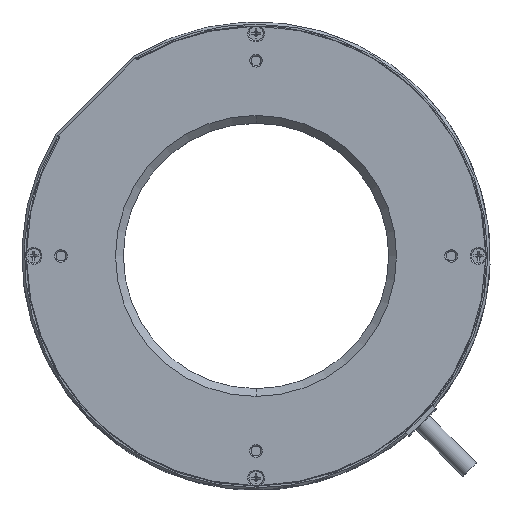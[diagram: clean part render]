
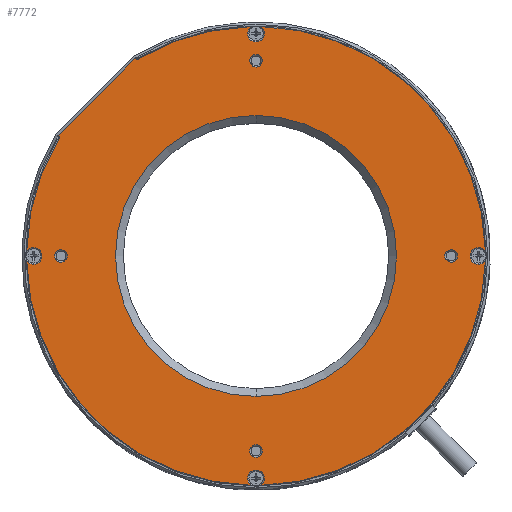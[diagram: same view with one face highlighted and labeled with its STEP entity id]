
A CAD part, top view. The second image highlights one B-rep face of the part: STEP entity #7772.
In plain terms, the highlighted planar face has unit normal (0, 0, 1).
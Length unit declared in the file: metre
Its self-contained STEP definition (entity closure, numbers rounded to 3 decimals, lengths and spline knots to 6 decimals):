
#1431=CARTESIAN_POINT('',(0.,0.,0.0035));
#1432=DIRECTION('',(0.,0.,-1.));
#1433=DIRECTION('',(0.,1.,0.));
#1434=AXIS2_PLACEMENT_3D('',#1431,#1432,#1433);
#1436=CARTESIAN_POINT('',(0.,0.,0.0035));
#1437=DIRECTION('',(0.,0.,-1.));
#1438=DIRECTION('',(0.,-1.,0.));
#1439=AXIS2_PLACEMENT_3D('',#1436,#1437,#1438);
#1441=CARTESIAN_POINT('',(0.,-0.05,0.0035));
#1442=DIRECTION('',(0.,0.,-1.));
#1443=DIRECTION('',(0.,-1.,0.));
#1444=AXIS2_PLACEMENT_3D('',#1441,#1442,#1443);
#1446=CARTESIAN_POINT('',(0.,-0.05,0.0035));
#1447=DIRECTION('',(0.,0.,-1.));
#1448=DIRECTION('',(0.,1.,0.));
#1449=AXIS2_PLACEMENT_3D('',#1446,#1447,#1448);
#1451=CARTESIAN_POINT('',(0.05,0.,0.0035));
#1452=DIRECTION('',(0.,0.,-1.));
#1453=DIRECTION('',(1.,0.,0.));
#1454=AXIS2_PLACEMENT_3D('',#1451,#1452,#1453);
#1456=CARTESIAN_POINT('',(0.05,0.,0.0035));
#1457=DIRECTION('',(0.,0.,-1.));
#1458=DIRECTION('',(-1.,0.,0.));
#1459=AXIS2_PLACEMENT_3D('',#1456,#1457,#1458);
#1461=CARTESIAN_POINT('',(0.,0.05,0.0035));
#1462=DIRECTION('',(0.,0.,-1.));
#1463=DIRECTION('',(0.,1.,0.));
#1464=AXIS2_PLACEMENT_3D('',#1461,#1462,#1463);
#1466=CARTESIAN_POINT('',(0.,0.05,0.0035));
#1467=DIRECTION('',(0.,0.,-1.));
#1468=DIRECTION('',(0.,-1.,0.));
#1469=AXIS2_PLACEMENT_3D('',#1466,#1467,#1468);
#1471=CARTESIAN_POINT('',(-0.05,0.,0.0035));
#1472=DIRECTION('',(0.,0.,-1.));
#1473=DIRECTION('',(-1.,0.,0.));
#1474=AXIS2_PLACEMENT_3D('',#1471,#1472,#1473);
#1476=CARTESIAN_POINT('',(-0.05,0.,0.0035));
#1477=DIRECTION('',(0.,0.,-1.));
#1478=DIRECTION('',(1.,0.,0.));
#1479=AXIS2_PLACEMENT_3D('',#1476,#1477,#1478);
#1481=CARTESIAN_POINT('',(0.,0.,0.0035));
#1482=DIRECTION('',(0.,0.,1.));
#1483=DIRECTION('',(-0.859,0.513,0.));
#1484=AXIS2_PLACEMENT_3D('',#1481,#1482,#1483);
#1486=CARTESIAN_POINT('',(-0.050912,0.030406,0.0035));
#1487=DIRECTION('',(0.,0.,-1.));
#1488=DIRECTION('',(0.707,0.707,0.));
#1489=AXIS2_PLACEMENT_3D('',#1486,#1487,#1488);
#1491=DIRECTION('',(0.707,-0.707,0.));
#1492=VECTOR('',#1491,0.000244);
#1493=CARTESIAN_POINT('',(-0.050731,0.030932,0.0035));
#1494=LINE('',#1493,#1492);
#1495=DIRECTION('',(-0.707,-0.707,0.));
#1496=VECTOR('',#1495,0.028);
#1497=CARTESIAN_POINT('',(-0.030932,0.050731,0.0035));
#1498=LINE('',#1497,#1496);
#1499=DIRECTION('',(-0.707,0.707,0.));
#1500=VECTOR('',#1499,0.000244);
#1501=CARTESIAN_POINT('',(-0.030759,0.050558,0.0035));
#1502=LINE('',#1501,#1500);
#1503=CARTESIAN_POINT('',(-0.030406,0.050912,0.0035));
#1504=DIRECTION('',(0.,0.,-1.));
#1505=DIRECTION('',(0.513,-0.859,0.));
#1506=AXIS2_PLACEMENT_3D('',#1503,#1504,#1505);
#1508=CARTESIAN_POINT('',(0.,0.,0.0035));
#1509=DIRECTION('',(0.,0.,1.));
#1510=DIRECTION('',(-0.02,1.,0.));
#1511=AXIS2_PLACEMENT_3D('',#1508,#1509,#1510);
#1513=CARTESIAN_POINT('',(0.,0.,0.0035));
#1514=DIRECTION('',(0.,0.,1.));
#1515=DIRECTION('',(1.,0.02,0.));
#1516=AXIS2_PLACEMENT_3D('',#1513,#1514,#1515);
#1518=CARTESIAN_POINT('',(0.,0.,0.0035));
#1519=DIRECTION('',(0.,0.,1.));
#1520=DIRECTION('',(0.02,-1.,0.));
#1521=AXIS2_PLACEMENT_3D('',#1518,#1519,#1520);
#1523=CARTESIAN_POINT('',(0.,0.,0.0035));
#1524=DIRECTION('',(0.,0.,1.));
#1525=DIRECTION('',(-1.,-0.02,0.));
#1526=AXIS2_PLACEMENT_3D('',#1523,#1524,#1525);
#2612=CARTESIAN_POINT('',(-0.057,0.,0.0035));
#2613=DIRECTION('',(0.,0.,-1.));
#2614=DIRECTION('',(-0.832,0.555,0.));
#2615=AXIS2_PLACEMENT_3D('',#2612,#2613,#2614);
#2944=CARTESIAN_POINT('',(0.,-0.057,0.0035));
#2945=DIRECTION('',(0.,0.,-1.));
#2946=DIRECTION('',(-0.555,-0.832,0.));
#2947=AXIS2_PLACEMENT_3D('',#2944,#2945,#2946);
#3269=CARTESIAN_POINT('',(0.057,0.,0.0035));
#3270=DIRECTION('',(0.,0.,-1.));
#3271=DIRECTION('',(0.832,-0.555,0.));
#3272=AXIS2_PLACEMENT_3D('',#3269,#3270,#3271);
#3601=CARTESIAN_POINT('',(0.,0.057,0.0035));
#3602=DIRECTION('',(0.,0.,-1.));
#3603=DIRECTION('',(0.555,0.832,0.));
#3604=AXIS2_PLACEMENT_3D('',#3601,#3602,#3603);
#4530=CARTESIAN_POINT('',(-0.050482,0.030149,0.0035));
#4531=CARTESIAN_POINT('',(-0.058788,0.001194,0.0035));
#4532=VERTEX_POINT('',#4530);
#4533=VERTEX_POINT('',#4531);
#4534=CARTESIAN_POINT('',(-0.050558,0.030759,0.0035));
#4535=VERTEX_POINT('',#4534);
#4536=CARTESIAN_POINT('',(-0.050731,0.030932,0.0035));
#4537=VERTEX_POINT('',#4536);
#4538=CARTESIAN_POINT('',(-0.030932,0.050731,0.0035));
#4539=VERTEX_POINT('',#4538);
#4540=CARTESIAN_POINT('',(-0.030759,0.050558,0.0035));
#4541=VERTEX_POINT('',#4540);
#4542=CARTESIAN_POINT('',(-0.030149,0.050482,0.0035));
#4543=VERTEX_POINT('',#4542);
#4544=CARTESIAN_POINT('',(-0.001194,0.058788,0.0035));
#4545=VERTEX_POINT('',#4544);
#4546=CARTESIAN_POINT('',(0.058788,0.001194,0.0035));
#4547=CARTESIAN_POINT('',(0.001194,0.058788,0.0035));
#4548=VERTEX_POINT('',#4546);
#4549=VERTEX_POINT('',#4547);
#4550=CARTESIAN_POINT('',(0.001194,-0.058788,0.0035));
#4551=CARTESIAN_POINT('',(0.058788,-0.001194,0.0035));
#4552=VERTEX_POINT('',#4550);
#4553=VERTEX_POINT('',#4551);
#4554=CARTESIAN_POINT('',(-0.058788,-0.001194,0.0035));
#4555=CARTESIAN_POINT('',(-0.001194,-0.058788,0.0035));
#4556=VERTEX_POINT('',#4554);
#4557=VERTEX_POINT('',#4555);
#4558=CARTESIAN_POINT('',(-0.0484,0.,0.0035));
#4559=CARTESIAN_POINT('',(-0.0516,0.,0.0035));
#4560=VERTEX_POINT('',#4558);
#4561=VERTEX_POINT('',#4559);
#4562=CARTESIAN_POINT('',(0.,0.0484,0.0035));
#4563=CARTESIAN_POINT('',(0.,0.0516,0.0035));
#4564=VERTEX_POINT('',#4562);
#4565=VERTEX_POINT('',#4563);
#4566=CARTESIAN_POINT('',(0.0484,0.,0.0035));
#4567=CARTESIAN_POINT('',(0.0516,0.,0.0035));
#4568=VERTEX_POINT('',#4566);
#4569=VERTEX_POINT('',#4567);
#4570=CARTESIAN_POINT('',(0.,-0.0484,0.0035));
#4571=CARTESIAN_POINT('',(0.,-0.0516,0.0035));
#4572=VERTEX_POINT('',#4570);
#4573=VERTEX_POINT('',#4571);
#4574=CARTESIAN_POINT('',(0.,-0.036,0.0035));
#4575=CARTESIAN_POINT('',(0.,0.036,0.0035));
#4576=VERTEX_POINT('',#4574);
#4577=VERTEX_POINT('',#4575);
#7709=CARTESIAN_POINT('',(0.,0.,0.0035));
#7710=DIRECTION('',(0.,0.,-1.));
#7711=DIRECTION('',(0.,-1.,0.));
#7712=AXIS2_PLACEMENT_3D('',#7709,#7710,#7711);
#7713=PLANE('',#7712);
#7715=ORIENTED_EDGE('',*,*,#7714,.F.);
#7717=ORIENTED_EDGE('',*,*,#7716,.F.);
#7719=ORIENTED_EDGE('',*,*,#7718,.F.);
#7721=ORIENTED_EDGE('',*,*,#7720,.F.);
#7723=ORIENTED_EDGE('',*,*,#7722,.F.);
#7725=ORIENTED_EDGE('',*,*,#7724,.F.);
#7727=ORIENTED_EDGE('',*,*,#7726,.F.);
#7729=ORIENTED_EDGE('',*,*,#7728,.F.);
#7731=ORIENTED_EDGE('',*,*,#7730,.F.);
#7733=ORIENTED_EDGE('',*,*,#7732,.F.);
#7735=ORIENTED_EDGE('',*,*,#7734,.F.);
#7737=ORIENTED_EDGE('',*,*,#7736,.F.);
#7739=ORIENTED_EDGE('',*,*,#7738,.F.);
#7741=ORIENTED_EDGE('',*,*,#7740,.F.);
#7742=EDGE_LOOP('',(#7715,#7717,#7719,#7721,#7723,#7725,#7727,#7729,#7731,#7733,
#7735,#7737,#7739,#7741));
#7743=FACE_OUTER_BOUND('',#7742,.F.);
#7745=ORIENTED_EDGE('',*,*,#7744,.F.);
#7747=ORIENTED_EDGE('',*,*,#7746,.F.);
#7748=EDGE_LOOP('',(#7745,#7747));
#7749=FACE_BOUND('',#7748,.F.);
#7751=ORIENTED_EDGE('',*,*,#7750,.F.);
#7753=ORIENTED_EDGE('',*,*,#7752,.F.);
#7754=EDGE_LOOP('',(#7751,#7753));
#7755=FACE_BOUND('',#7754,.F.);
#7757=ORIENTED_EDGE('',*,*,#7756,.F.);
#7759=ORIENTED_EDGE('',*,*,#7758,.F.);
#7760=EDGE_LOOP('',(#7757,#7759));
#7761=FACE_BOUND('',#7760,.F.);
#7763=ORIENTED_EDGE('',*,*,#7762,.F.);
#7765=ORIENTED_EDGE('',*,*,#7764,.F.);
#7766=EDGE_LOOP('',(#7763,#7765));
#7767=FACE_BOUND('',#7766,.F.);
#7768=ORIENTED_EDGE('',*,*,#7702,.F.);
#7769=ORIENTED_EDGE('',*,*,#7688,.F.);
#7770=EDGE_LOOP('',(#7768,#7769));
#7771=FACE_BOUND('',#7770,.F.);
#7772=ADVANCED_FACE('',(#7743,#7749,#7755,#7761,#7767,#7771),#7713,.F.);
#1435=CIRCLE('',#1434,0.036);
#1440=CIRCLE('',#1439,0.036);
#1445=CIRCLE('',#1444,0.0016);
#1450=CIRCLE('',#1449,0.0016);
#1455=CIRCLE('',#1454,0.0016);
#1460=CIRCLE('',#1459,0.0016);
#1465=CIRCLE('',#1464,0.0016);
#1470=CIRCLE('',#1469,0.0016);
#1475=CIRCLE('',#1474,0.0016);
#1480=CIRCLE('',#1479,0.0016);
#1485=CIRCLE('',#1484,0.0588);
#1490=CIRCLE('',#1489,0.0005);
#1507=CIRCLE('',#1506,0.0005);
#1512=CIRCLE('',#1511,0.0588);
#1517=CIRCLE('',#1516,0.0588);
#1522=CIRCLE('',#1521,0.0588);
#1527=CIRCLE('',#1526,0.0588);
#2616=CIRCLE('',#2615,0.00215);
#2948=CIRCLE('',#2947,0.00215);
#3273=CIRCLE('',#3272,0.00215);
#3605=CIRCLE('',#3604,0.00215);
#7688=EDGE_CURVE('',#4576,#4577,#1440,.T.);
#7702=EDGE_CURVE('',#4577,#4576,#1435,.T.);
#7714=EDGE_CURVE('',#4533,#4556,#2616,.T.);
#7716=EDGE_CURVE('',#4532,#4533,#1485,.T.);
#7718=EDGE_CURVE('',#4535,#4532,#1490,.T.);
#7720=EDGE_CURVE('',#4537,#4535,#1494,.T.);
#7722=EDGE_CURVE('',#4539,#4537,#1498,.T.);
#7724=EDGE_CURVE('',#4541,#4539,#1502,.T.);
#7726=EDGE_CURVE('',#4543,#4541,#1507,.T.);
#7728=EDGE_CURVE('',#4545,#4543,#1512,.T.);
#7730=EDGE_CURVE('',#4549,#4545,#3605,.T.);
#7732=EDGE_CURVE('',#4548,#4549,#1517,.T.);
#7734=EDGE_CURVE('',#4553,#4548,#3273,.T.);
#7736=EDGE_CURVE('',#4552,#4553,#1522,.T.);
#7738=EDGE_CURVE('',#4557,#4552,#2948,.T.);
#7740=EDGE_CURVE('',#4556,#4557,#1527,.T.);
#7744=EDGE_CURVE('',#4573,#4572,#1445,.T.);
#7746=EDGE_CURVE('',#4572,#4573,#1450,.T.);
#7750=EDGE_CURVE('',#4569,#4568,#1455,.T.);
#7752=EDGE_CURVE('',#4568,#4569,#1460,.T.);
#7756=EDGE_CURVE('',#4565,#4564,#1465,.T.);
#7758=EDGE_CURVE('',#4564,#4565,#1470,.T.);
#7762=EDGE_CURVE('',#4561,#4560,#1475,.T.);
#7764=EDGE_CURVE('',#4560,#4561,#1480,.T.);
